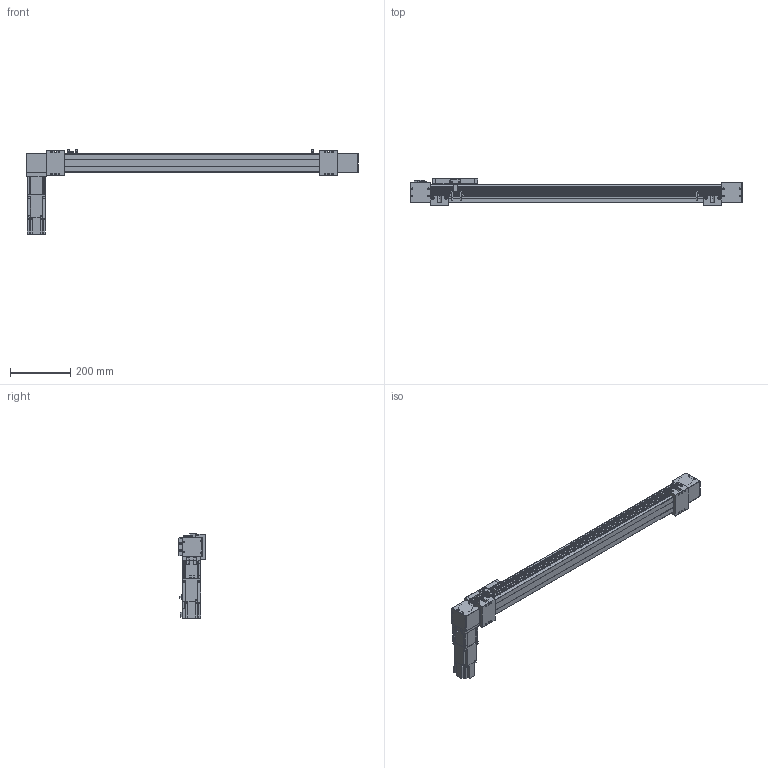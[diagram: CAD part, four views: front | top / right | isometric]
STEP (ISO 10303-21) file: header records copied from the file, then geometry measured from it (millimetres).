
FILE_DESCRIPTION(/* description */ ('STEP AP203'),/* implementation_level */ '2;1');
FILE_NAME(/* name */ 'SK60-P13-S800-BR-T40-C1-N(0)',/* time_stamp */ '2023-04-06T03:59:28+02:00',/* author */ ('License CC BY-ND 4.0'),/* organization */ ('CADENAS'),/* preprocessor_version */ 'ST-DEVELOPER v19.3',/* originating_system */ 'PARTsolutions',/* authorisation */ ' ');
FILE_SCHEMA (('CONFIG_CONTROL_DESIGN'));
Length unit declared in the file: millimetre
Products named in the file (11): SK60-P13-S800-BR-T40-C1-N(0); PSC140-sensor; SK60-S450_seat; SK60-S450-BL-C1_slider; SK60_body3; SK60_body6; SK60-BL_body2; T40-p1; SK60_body5; SK60_body4; SK60-S800-BR-C1_body
Assembly tree (17 placements, depth 2):
  SK60-P13-S800-BR-T40-C1-N(0)
    PSC140-sensor  x3
    SK60-S450_seat  x2
    SK60-S450-BL-C1_slider
    SK60_body3  x3
    SK60_body6  x2
    SK60-BL_body2  x2
    T40-p1
    SK60_body5
    SK60_body4
    SK60-S800-BR-C1_body
Bounding box: 1100 x 90 x 279.1 mm (x, y, z)
Volume: 4334124.7 mm3; surface area: 600162.7 mm2
Topology: 17 solids, 21 shells, 834 faces, 2109 edges, 1394 vertices
Faces by surface type: plane 544, cylinder 266, cone 22, torus 2
Full cylindrical faces by diameter (mm): 2.8 x3, 3.3 x4, 4.2 x8, 4.5 x26, 4.6 x3, 4.917 x16, 5 x2, 5.478 x4, 5.5 x19, 6.5 x4, 8 x4, 8.5 x4, 9.988 x4, 10 x8, 13.556 x1, 14 x1, 14.586 x1, 19.692 x1, 38.432 x2, 43 x1, 44 x3, 47 x2, 50 x2
Entity records: 19371 total; most frequent: DIRECTION 3292, CARTESIAN_POINT 3289, ORIENTED_EDGE 3050, EDGE_CURVE 1525, AXIS2_PLACEMENT_3D 1100, LINE 1092, VECTOR 1092, VERTEX_POINT 1077
